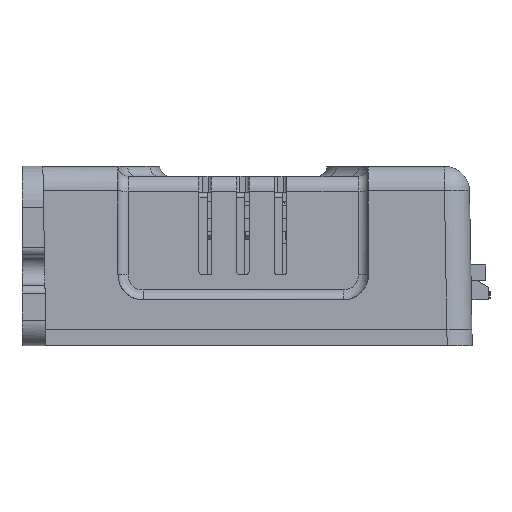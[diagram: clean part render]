
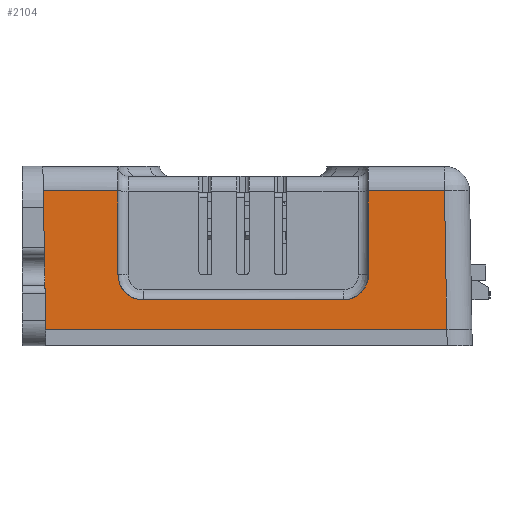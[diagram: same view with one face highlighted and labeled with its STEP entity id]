
A CAD part, left-side view. The second image highlights one B-rep face of the part: STEP entity #2104.
In plain terms, the highlighted planar face has unit normal (-1, 0, 0.018).
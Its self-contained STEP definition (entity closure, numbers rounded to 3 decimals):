
#2104=ADVANCED_FACE('',(#5456),#5457,.F.);
#5456=FACE_OUTER_BOUND('',#10281,.T.);
#5457=PLANE('',#10282);
#10281=EDGE_LOOP('',(#23707,#23708,#23709,#23710,#23711,#23712,#23713,#23714,#23715,#23716));
#10282=AXIS2_PLACEMENT_3D('',#23717,#23718,#23719);
#23707=ORIENTED_EDGE('',*,*,#33037,.T.);
#23708=ORIENTED_EDGE('',*,*,#33038,.T.);
#23709=ORIENTED_EDGE('',*,*,#33039,.T.);
#23710=ORIENTED_EDGE('',*,*,#33040,.T.);
#23711=ORIENTED_EDGE('',*,*,#33041,.T.);
#23712=ORIENTED_EDGE('',*,*,#33042,.F.);
#23713=ORIENTED_EDGE('',*,*,#32935,.T.);
#23714=ORIENTED_EDGE('',*,*,#32884,.F.);
#23715=ORIENTED_EDGE('',*,*,#33043,.F.);
#23716=ORIENTED_EDGE('',*,*,#33044,.F.);
#23717=CARTESIAN_POINT('',(-206.213,-25.7,-0.5));
#23718=DIRECTION('',(1.,0.0,-0.017));
#23719=DIRECTION('',(0.0,-1.0,0.0));
#32884=EDGE_CURVE('',#40917,#40919,#40920,.T.);
#32935=EDGE_CURVE('',#41002,#40919,#41003,.T.);
#33037=EDGE_CURVE('',#41184,#41185,#41186,.T.);
#33038=EDGE_CURVE('',#41185,#41187,#41188,.T.);
#33039=EDGE_CURVE('',#41187,#41189,#41190,.T.);
#33040=EDGE_CURVE('',#41189,#41191,#41192,.T.);
#33041=EDGE_CURVE('',#41191,#41193,#41194,.T.);
#33042=EDGE_CURVE('',#41002,#41193,#41195,.T.);
#33043=EDGE_CURVE('',#41196,#40917,#41197,.T.);
#33044=EDGE_CURVE('',#41184,#41196,#41198,.T.);
#40917=VERTEX_POINT('',#55216);
#40919=VERTEX_POINT('',#55232);
#40920=LINE('',#55233,#55234);
#41002=VERTEX_POINT('',#55346);
#41003=LINE('',#55347,#55348);
#41184=VERTEX_POINT('',#55594);
#41185=VERTEX_POINT('',#55595);
#41186=LINE('',#55596,#55597);
#41187=VERTEX_POINT('',#55598);
#41188=ELLIPSE('',#55599,3.,3.0);
#41189=VERTEX_POINT('',#55600);
#41190=LINE('',#55601,#55602);
#41191=VERTEX_POINT('',#55603);
#41192=ELLIPSE('',#55604,3.,3.0);
#41193=VERTEX_POINT('',#55605);
#41194=LINE('',#55606,#55607);
#41195=LINE('',#55608,#55609);
#41196=VERTEX_POINT('',#55610);
#41197=LINE('',#55611,#55612);
#41198=LINE('',#55613,#55614);
#55216=CARTESIAN_POINT('',(-206.213,-48.4,-0.5));
#55232=CARTESIAN_POINT('',(-206.213,-0.34,-0.5));
#55233=CARTESIAN_POINT('',(-206.213,-24.37,-0.5));
#55234=VECTOR('',#66561,1.0);
#55346=CARTESIAN_POINT('',(-205.924,-0.051,16.052));
#55347=CARTESIAN_POINT('',(-206.069,-0.196,7.776));
#55348=VECTOR('',#66652,1.0);
#55594=CARTESIAN_POINT('',(-205.924,-39.0,16.052));
#55595=CARTESIAN_POINT('',(-206.1,-39.0,6.));
#55596=CARTESIAN_POINT('',(-206.043,-39.0,9.25));
#55597=VECTOR('',#66829,1.0);
#55598=CARTESIAN_POINT('',(-206.152,-36.0,3.0));
#55599=AXIS2_PLACEMENT_3D('',#66830,#66831,#66832);
#55600=CARTESIAN_POINT('',(-206.152,-12.0,3.0));
#55601=CARTESIAN_POINT('',(-206.152,-25.7,3.0));
#55602=VECTOR('',#66833,1.0);
#55603=CARTESIAN_POINT('',(-206.1,-9.0,6.0));
#55604=AXIS2_PLACEMENT_3D('',#66834,#66835,#66836);
#55605=CARTESIAN_POINT('',(-205.924,-9.0,16.052));
#55606=CARTESIAN_POINT('',(-206.043,-9.0,9.25));
#55607=VECTOR('',#66837,1.0);
#55608=CARTESIAN_POINT('',(-205.924,-25.7,16.052));
#55609=VECTOR('',#66838,1.0);
#55610=CARTESIAN_POINT('',(-205.924,-48.112,16.052));
#55611=CARTESIAN_POINT('',(-206.069,-48.256,7.776));
#55612=VECTOR('',#66839,1.0);
#55613=CARTESIAN_POINT('',(-205.924,-25.7,16.052));
#55614=VECTOR('',#66840,1.0);
#66561=DIRECTION('',(0.0,1.0,0.0));
#66652=DIRECTION('',(-0.017,-0.017,-1.));
#66829=DIRECTION('',(-0.017,0.0,-1.));
#66830=CARTESIAN_POINT('',(-206.1,-36.0,6.0));
#66831=DIRECTION('',(1.,0.0,-0.017));
#66832=DIRECTION('',(0.017,0.0,1.));
#66833=DIRECTION('',(0.0,1.0,0.0));
#66834=CARTESIAN_POINT('',(-206.1,-12.0,6.0));
#66835=DIRECTION('',(1.,0.0,-0.017));
#66836=DIRECTION('',(0.017,0.0,1.));
#66837=DIRECTION('',(0.017,0.0,1.));
#66838=DIRECTION('',(0.0,-1.0,0.0));
#66839=DIRECTION('',(-0.017,-0.017,-1.));
#66840=DIRECTION('',(0.0,-1.0,0.0));
